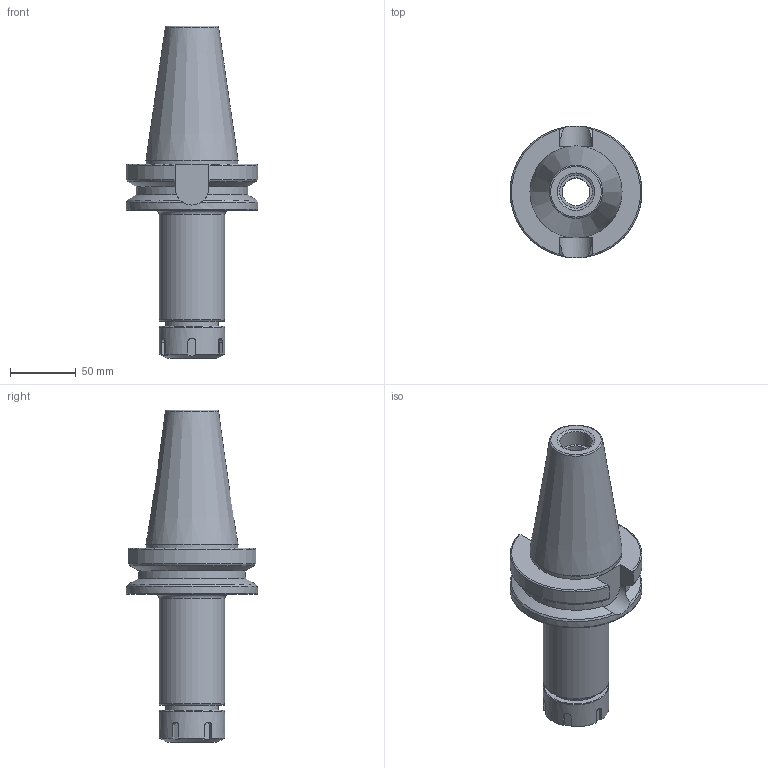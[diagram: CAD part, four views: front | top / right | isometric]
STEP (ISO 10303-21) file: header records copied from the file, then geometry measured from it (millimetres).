
FILE_DESCRIPTION(/* description */ (''),/* implementation_level */ '2;1');
FILE_NAME(/* name */ 'BT50-ER32-150.stp',/* time_stamp */ '2025-08-19T16:05:50+03:00',/* author */ ('User'),/* organization */ (''),/* preprocessor_version */ 'ST-DEVELOPER v19.2',/* originating_system */ 'Autodesk Inventor 2024',/* authorisation */ '');
FILE_SCHEMA (('AUTOMOTIVE_DESIGN { 1 0 10303 214 3 1 1 }'));
Length unit declared in the file: millimetre
Products named in the file (3): BT50-ER32-150; BT50-ER32-150_1; ER25-M
Assembly tree (2 placements, depth 2):
  BT50-ER32-150
    BT50-ER32-150_1
    ER25-M
Bounding box: 100 x 100 x 251.8 mm (x, y, z)
Volume: 602649.6 mm3; surface area: 85334.2 mm2
Topology: 2 solids, 2 shells, 85 faces, 221 edges, 148 vertices
Faces by surface type: plane 40, cylinder 23, cone 14, torus 8
Full cylindrical faces by diameter (mm): 21 x1, 24.411 x1, 25 x1, 31 x1, 38.5 x2, 40 x1, 50 x2, 69.6 x1, 100 x1
Entity records: 2892 total; most frequent: CARTESIAN_POINT 737, ORIENTED_EDGE 442, DIRECTION 425, EDGE_CURVE 221, AXIS2_PLACEMENT_3D 173, VERTEX_POINT 148, EDGE_LOOP 97, FACE_OUTER_BOUND 85
